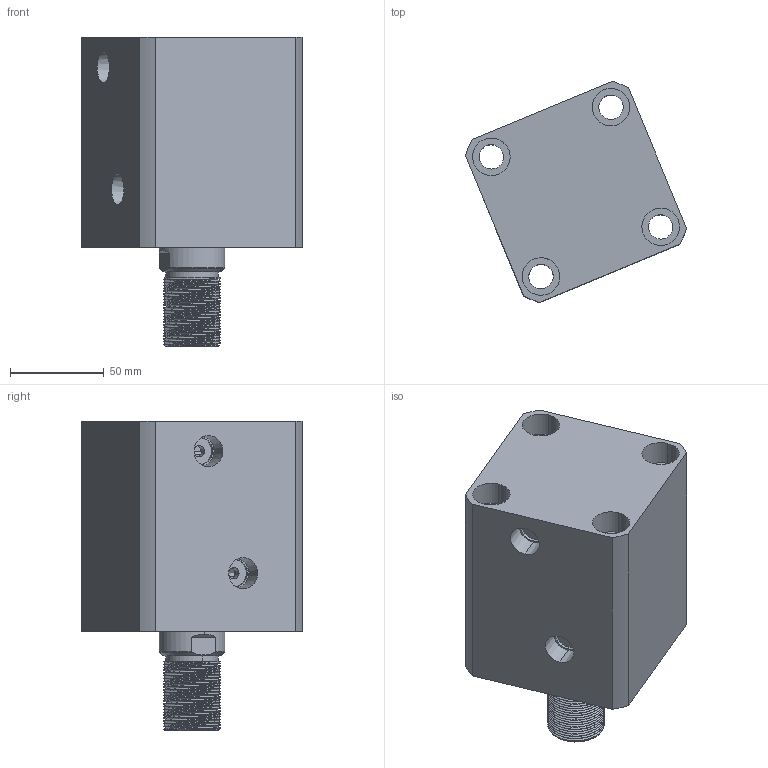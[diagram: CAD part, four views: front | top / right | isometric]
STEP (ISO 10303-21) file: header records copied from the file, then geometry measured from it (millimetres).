
FILE_DESCRIPTION (( 'STEP AP214' ), '1' );
FILE_NAME ('chtb-sd63x45w_asm.STEP', '2018-05-19T01:59:12', ( 'Windows' ), ( 'Microsoft' ), 'SwSTEP 2.0', 'SolidWorks 2015', '' );
FILE_SCHEMA (( 'AUTOMOTIVE_DESIGN' ));
Length unit declared in the file: millimetre
Products named in the file (4): chtb-sd63x45w_asm; CHTB63X45WHSG; CHTB63X45NBT; CHTB-63QG
Assembly tree (3 placements, depth 2):
  chtb-sd63x45w_asm
    CHTB-63QG
    CHTB63X45NBT
    CHTB63X45WHSG
Bounding box: 117.81 x 117.81 x 165 mm (x, y, z)
Volume: 839537.6 mm3; surface area: 145354 mm2
Topology: 3 solids, 3 shells, 219 faces, 625 edges, 427 vertices
Faces by surface type: cylinder 150, plane 36, bspline 14, cone 13, torus 6
Entity records: 22208 total; most frequent: CARTESIAN_POINT 16953, ORIENTED_EDGE 1242, DIRECTION 881, EDGE_CURVE 621, VERTEX_POINT 427, AXIS2_PLACEMENT_3D 346, EDGE_LOOP 252, ADVANCED_FACE 219
